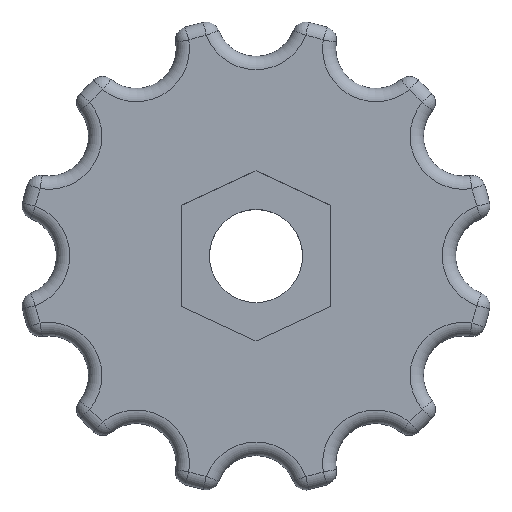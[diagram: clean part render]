
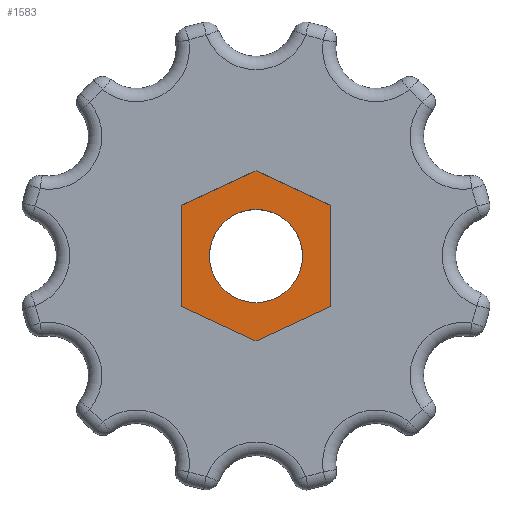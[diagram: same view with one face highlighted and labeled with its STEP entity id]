
A CAD part, top view. The second image highlights one B-rep face of the part: STEP entity #1583.
In plain terms, the highlighted planar face has unit normal (0, 0, 1).
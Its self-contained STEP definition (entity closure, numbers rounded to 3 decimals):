
#17=FACE_BOUND('',#440,.T.);
#21=PLANE('',#1860);
#82=LINE('',#2941,#148);
#83=LINE('',#2943,#149);
#84=LINE('',#2945,#150);
#85=LINE('',#2947,#151);
#86=LINE('',#2949,#152);
#87=LINE('',#2950,#153);
#148=VECTOR('',#2461,10.);
#149=VECTOR('',#2462,10.);
#150=VECTOR('',#2463,10.);
#151=VECTOR('',#2464,10.);
#152=VECTOR('',#2465,10.);
#153=VECTOR('',#2466,10.);
#331=FACE_OUTER_BOUND('',#439,.T.);
#439=EDGE_LOOP('',(#1428,#1429,#1430,#1431,#1432,#1433));
#440=EDGE_LOOP('',(#1434));
#618=CIRCLE('',#1861,1.75);
#746=VERTEX_POINT('',#2939);
#747=VERTEX_POINT('',#2940);
#748=VERTEX_POINT('',#2942);
#749=VERTEX_POINT('',#2944);
#750=VERTEX_POINT('',#2946);
#751=VERTEX_POINT('',#2948);
#752=VERTEX_POINT('',#2951);
#976=EDGE_CURVE('',#746,#747,#82,.T.);
#977=EDGE_CURVE('',#748,#746,#83,.T.);
#978=EDGE_CURVE('',#749,#748,#84,.T.);
#979=EDGE_CURVE('',#750,#749,#85,.T.);
#980=EDGE_CURVE('',#751,#750,#86,.T.);
#981=EDGE_CURVE('',#747,#751,#87,.T.);
#982=EDGE_CURVE('',#752,#752,#618,.T.);
#1428=ORIENTED_EDGE('',*,*,#976,.F.);
#1429=ORIENTED_EDGE('',*,*,#977,.F.);
#1430=ORIENTED_EDGE('',*,*,#978,.F.);
#1431=ORIENTED_EDGE('',*,*,#979,.F.);
#1432=ORIENTED_EDGE('',*,*,#980,.F.);
#1433=ORIENTED_EDGE('',*,*,#981,.F.);
#1434=ORIENTED_EDGE('',*,*,#982,.F.);
#1583=ADVANCED_FACE('',(#331,#17),#21,.F.);
#1860=AXIS2_PLACEMENT_3D('',#2938,#2459,#2460);
#1861=AXIS2_PLACEMENT_3D('',#2952,#2467,#2468);
#2459=DIRECTION('center_axis',(0.,0.,-1.));
#2460=DIRECTION('ref_axis',(-1.,0.,0.));
#2461=DIRECTION('',(0.,1.,0.));
#2462=DIRECTION('',(-0.907,0.421,0.));
#2463=DIRECTION('',(-0.907,-0.421,0.));
#2464=DIRECTION('',(0.,-1.,0.));
#2465=DIRECTION('',(0.907,-0.421,0.));
#2466=DIRECTION('',(0.907,0.421,0.));
#2467=DIRECTION('center_axis',(0.,0.,1.));
#2468=DIRECTION('ref_axis',(-1.,0.,0.));
#2938=CARTESIAN_POINT('Origin',(0.,0.,3.));
#2939=CARTESIAN_POINT('',(-2.8,-1.9,3.));
#2940=CARTESIAN_POINT('',(-2.8,1.9,3.));
#2941=CARTESIAN_POINT('',(-2.8,1.9,3.));
#2942=CARTESIAN_POINT('',(0.,-3.2,3.));
#2943=CARTESIAN_POINT('',(-2.8,-1.9,3.));
#2944=CARTESIAN_POINT('',(2.8,-1.9,3.));
#2945=CARTESIAN_POINT('',(0.,-3.2,3.));
#2946=CARTESIAN_POINT('',(2.8,1.9,3.));
#2947=CARTESIAN_POINT('',(2.8,0.,3.));
#2948=CARTESIAN_POINT('',(0.,3.2,3.));
#2949=CARTESIAN_POINT('',(2.8,1.9,3.));
#2950=CARTESIAN_POINT('',(0.,3.2,3.));
#2951=CARTESIAN_POINT('',(1.75,0.,3.));
#2952=CARTESIAN_POINT('Origin',(0.,0.,3.));
